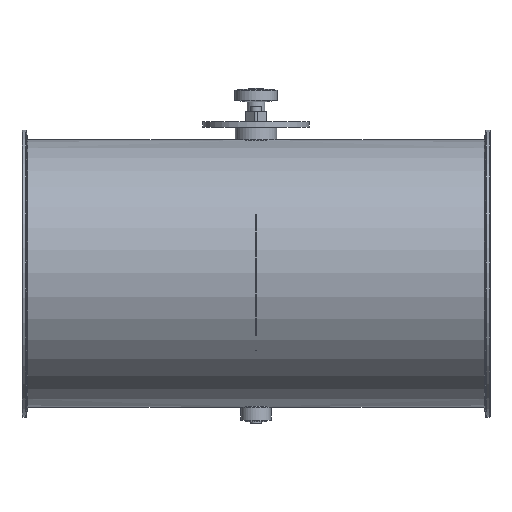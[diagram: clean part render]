
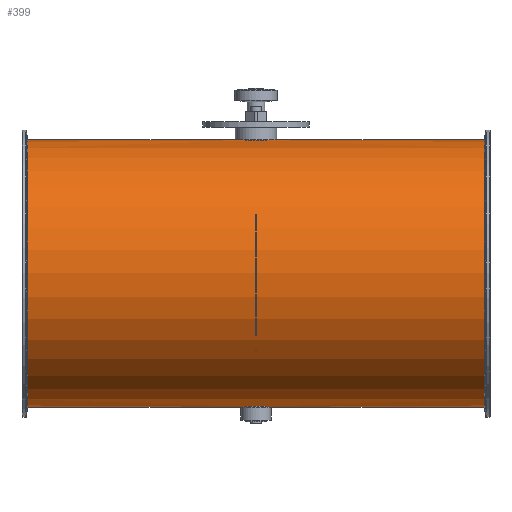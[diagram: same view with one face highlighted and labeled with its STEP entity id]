
A CAD part, top view. The second image highlights one B-rep face of the part: STEP entity #399.
In plain terms, the highlighted cylindrical face has radius 125.8 mm (diameter 251.6 mm), a full revolution.
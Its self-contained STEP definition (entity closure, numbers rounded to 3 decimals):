
#105=B_SPLINE_CURVE_WITH_KNOTS('',3,(#1839,#1840,#1841,#1842,#1843,#1844,
#1845,#1846,#1847,#1848,#1849,#1850,#1851,#1852,#1853,#1854,#1855,#1856),
 .UNSPECIFIED.,.T.,.F.,(2,2,2,2,2,2,2,2,2,2,2),(-0.125,0.,0.125,
0.25,0.375,0.5,0.625,
0.75,0.875,1.,1.125),.UNSPECIFIED.);
#106=B_SPLINE_CURVE_WITH_KNOTS('',3,(#1858,#1859,#1860,#1861,#1862,#1863,
#1864,#1865,#1866,#1867,#1868,#1869,#1870,#1871,#1872,#1873,#1874,#1875),
 .UNSPECIFIED.,.T.,.F.,(2,2,2,2,2,2,2,2,2,2,2),(-0.125,0.,0.125,
0.25,0.375,0.5,0.625,
0.75,0.875,1.,1.125),.UNSPECIFIED.);
#149=FACE_BOUND('',#555,.T.);
#150=FACE_BOUND('',#556,.T.);
#151=FACE_BOUND('',#557,.T.);
#152=FACE_BOUND('',#558,.T.);
#277=CYLINDRICAL_SURFACE('',#1259,125.8);
#316=CIRCLE('',#1257,125.8);
#317=CIRCLE('',#1258,125.8);
#399=ADVANCED_FACE('',(#149,#150,#151,#152),#277,.T.);
#555=EDGE_LOOP('',(#773));
#556=EDGE_LOOP('',(#774));
#557=EDGE_LOOP('',(#775));
#558=EDGE_LOOP('',(#776));
#773=ORIENTED_EDGE('',*,*,#1069,.T.);
#774=ORIENTED_EDGE('',*,*,#1070,.F.);
#775=ORIENTED_EDGE('',*,*,#1071,.F.);
#776=ORIENTED_EDGE('',*,*,#1072,.T.);
#955=VERTEX_POINT('',#1838);
#956=VERTEX_POINT('',#1857);
#957=VERTEX_POINT('',#1876);
#958=VERTEX_POINT('',#1878);
#1069=EDGE_CURVE('',#955,#955,#316,.T.);
#1070=EDGE_CURVE('',#956,#956,#105,.T.);
#1071=EDGE_CURVE('',#957,#957,#106,.T.);
#1072=EDGE_CURVE('',#958,#958,#317,.T.);
#1257=AXIS2_PLACEMENT_3D('',#1837,#1477,#1478);
#1258=AXIS2_PLACEMENT_3D('',#1877,#1479,#1480);
#1259=AXIS2_PLACEMENT_3D('',#1879,#1481,#1482);
#1477=DIRECTION('',(-1.,0.,0.));
#1478=DIRECTION('',(0.,0.,-1.));
#1479=DIRECTION('',(1.,0.,0.));
#1480=DIRECTION('',(0.,0.,1.));
#1481=DIRECTION('',(1.,0.,0.));
#1482=DIRECTION('',(0.,0.,-1.));
#1837=CARTESIAN_POINT('',(214.804,-51.,125.));
#1838=CARTESIAN_POINT('',(214.804,-51.,-0.8));
#1839=CARTESIAN_POINT('',(2.644,74.402,115.));
#1840=CARTESIAN_POINT('',(-2.644,74.402,115.));
#1841=CARTESIAN_POINT('',(-5.228,74.497,116.085));
#1842=CARTESIAN_POINT('',(-8.916,74.705,119.774));
#1843=CARTESIAN_POINT('',(-9.999,74.8,122.385));
#1844=CARTESIAN_POINT('',(-10.001,74.8,127.604));
#1845=CARTESIAN_POINT('',(-8.941,74.706,130.2));
#1846=CARTESIAN_POINT('',(-5.208,74.496,133.936));
#1847=CARTESIAN_POINT('',(-2.614,74.402,134.999));
#1848=CARTESIAN_POINT('',(2.607,74.402,135.001));
#1849=CARTESIAN_POINT('',(5.219,74.497,133.92));
#1850=CARTESIAN_POINT('',(8.91,74.705,130.236));
#1851=CARTESIAN_POINT('',(9.997,74.8,127.65));
#1852=CARTESIAN_POINT('',(10.003,74.8,122.369));
#1853=CARTESIAN_POINT('',(8.92,74.705,119.781));
#1854=CARTESIAN_POINT('',(5.233,74.498,116.088));
#1855=CARTESIAN_POINT('',(2.644,74.402,115.));
#1856=CARTESIAN_POINT('',(-2.644,74.402,115.));
#1857=CARTESIAN_POINT('',(0.,74.402,115.));
#1858=CARTESIAN_POINT('',(-2.644,-176.402,115.));
#1859=CARTESIAN_POINT('',(2.644,-176.402,115.));
#1860=CARTESIAN_POINT('',(5.228,-176.497,116.085));
#1861=CARTESIAN_POINT('',(8.916,-176.705,119.774));
#1862=CARTESIAN_POINT('',(9.999,-176.8,122.385));
#1863=CARTESIAN_POINT('',(10.001,-176.8,127.604));
#1864=CARTESIAN_POINT('',(8.941,-176.706,130.2));
#1865=CARTESIAN_POINT('',(5.208,-176.496,133.936));
#1866=CARTESIAN_POINT('',(2.614,-176.402,134.999));
#1867=CARTESIAN_POINT('',(-2.607,-176.402,135.001));
#1868=CARTESIAN_POINT('',(-5.219,-176.497,133.92));
#1869=CARTESIAN_POINT('',(-8.91,-176.705,130.236));
#1870=CARTESIAN_POINT('',(-9.997,-176.8,127.65));
#1871=CARTESIAN_POINT('',(-10.003,-176.8,122.369));
#1872=CARTESIAN_POINT('',(-8.92,-176.705,119.781));
#1873=CARTESIAN_POINT('',(-5.233,-176.498,116.088));
#1874=CARTESIAN_POINT('',(-2.644,-176.402,115.));
#1875=CARTESIAN_POINT('',(2.644,-176.402,115.));
#1876=CARTESIAN_POINT('',(0.,-176.402,115.));
#1877=CARTESIAN_POINT('',(-214.804,-51.,125.));
#1878=CARTESIAN_POINT('',(-214.804,-51.,250.8));
#1879=CARTESIAN_POINT('',(-220.,-51.,125.));
